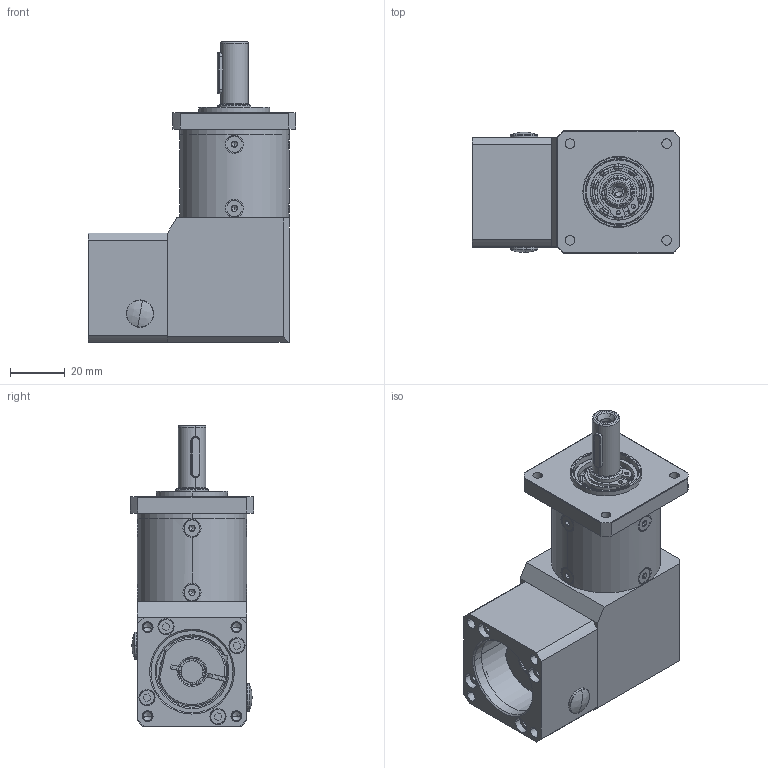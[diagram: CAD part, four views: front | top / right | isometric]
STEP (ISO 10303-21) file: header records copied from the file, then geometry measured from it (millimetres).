
FILE_DESCRIPTION (( 'STEP AP203' ), '1' );
FILE_NAME ('WPF40L1-i-P2-S2-8-25-30-46-M4.step', '2020-03-30T09:04:17', ( '个人用户' ), ( '微软中国' ), 'SwSTEP 2.0', 'SolidWorks 2018', '' );
FILE_SCHEMA (( 'CONFIG_CONTROL_DESIGN' ));
Products named in the file (1): WPF40L1-i-P2-S2-8-25-30-46-M4
Bounding box: 76 x 45 x 110 mm (x, y, z)
Volume: 131565 mm3; surface area: 66221.5 mm2
Topology: 37 solids, 37 shells, 1403 faces, 3594 edges, 2265 vertices
Faces by surface type: cylinder 436, plane 349, sphere 220, cone 208, torus 190
Entity records: 50176 total; most frequent: CARTESIAN_POINT 16160, DIRECTION 7217, ORIENTED_EDGE 7120, EDGE_CURVE 3560, AXIS2_PLACEMENT_3D 3126, VERTEX_POINT 2265, CIRCLE 1722, EDGE_LOOP 1627
